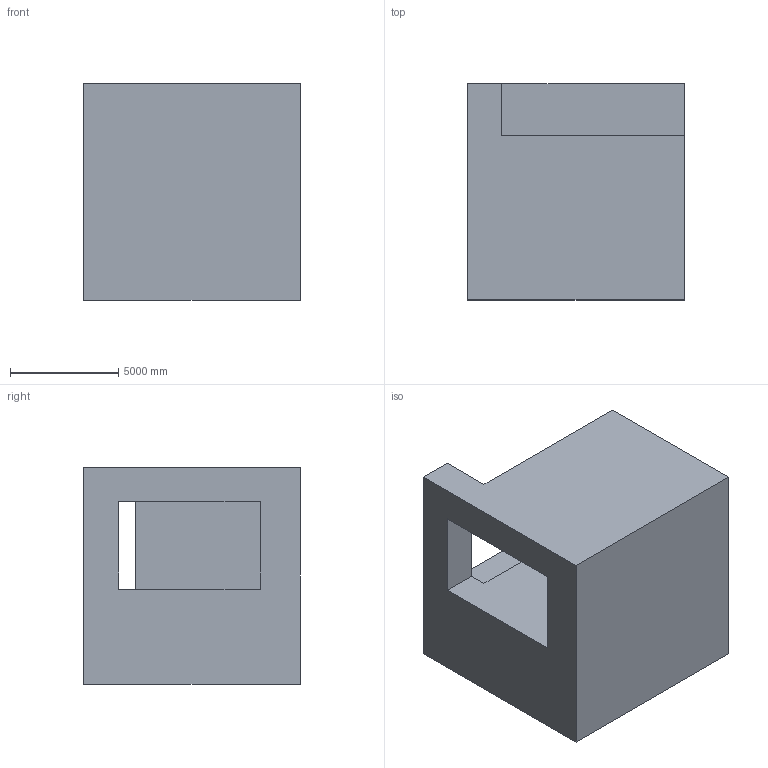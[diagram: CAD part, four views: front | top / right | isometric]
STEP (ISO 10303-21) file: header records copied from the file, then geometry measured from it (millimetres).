
FILE_DESCRIPTION (( 'STEP AP203' ), '1' );
FILE_NAME ('1042.STEP', '2022-08-18T12:32:00', ( 'user' ), ( '' ), 'SwSTEP 2.0', 'SolidWorks 2021', '' );
FILE_SCHEMA (( 'CONFIG_CONTROL_DESIGN' ));
Length unit declared in the file: centimetre
Products named in the file (1): 1042
Bounding box: 10000 x 10000 x 10000 mm (x, y, z)
Volume: 727884541378.7 mm3; surface area: 672940476.4 mm2
Topology: 1 solids, 1 shells, 14 faces, 39 edges, 26 vertices
Faces by surface type: plane 14
Entity records: 524 total; most frequent: CARTESIAN_POINT 80, ORIENTED_EDGE 78, DIRECTION 69, VECTOR 39, LINE 39, EDGE_CURVE 39, VERTEX_POINT 26, EDGE_LOOP 15
